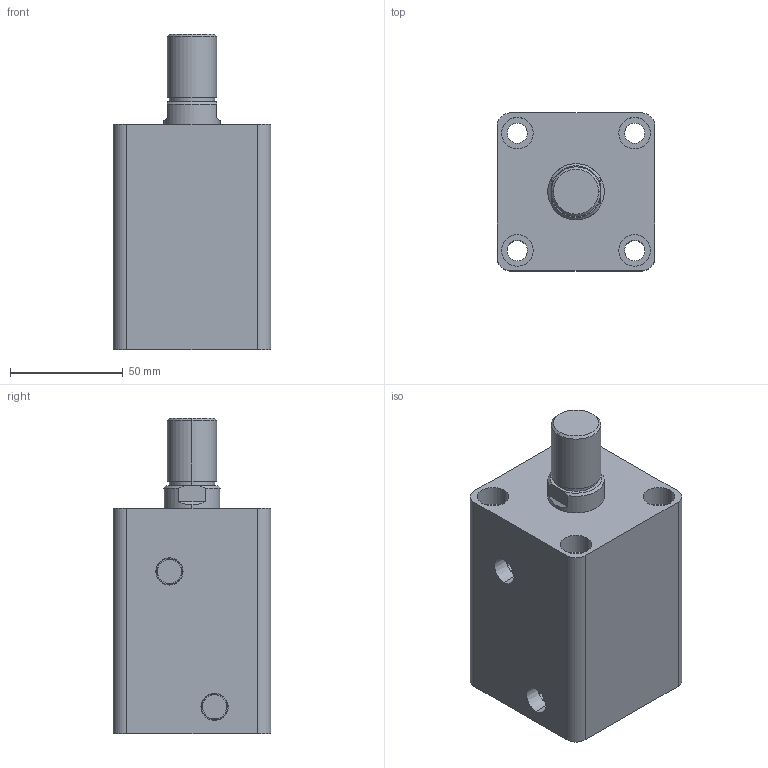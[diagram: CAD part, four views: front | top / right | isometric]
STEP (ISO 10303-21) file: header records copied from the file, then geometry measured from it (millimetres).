
FILE_DESCRIPTION (( 'STEP AP203' ), '1' );
FILE_NAME ('HTB-SD40-45W.STEP', '2019-10-07T06:51:38', ( '微软用户' ), ( '微软中国' ), 'SwSTEP 2.0', 'SolidWorks 2012', '' );
FILE_SCHEMA (( 'CONFIG_CONTROL_DESIGN' ));
Length unit declared in the file: millimetre
Products named in the file (3): HTB-SD40-45W; HTB-SD40-45掛极; HTB-SD40-45W活塞杆
Assembly tree (2 placements, depth 2):
  HTB-SD40-45W
    HTB-SD40-45掛极
    HTB-SD40-45W活塞杆
Bounding box: 70 x 70 x 140 mm (x, y, z)
Volume: 434482.7 mm3; surface area: 74142.9 mm2
Topology: 2 solids, 2 shells, 85 faces, 186 edges, 122 vertices
Faces by surface type: cylinder 44, plane 29, cone 8, torus 4
Entity records: 2709 total; most frequent: DIRECTION 466, CARTESIAN_POINT 426, ORIENTED_EDGE 372, AXIS2_PLACEMENT_3D 198, EDGE_CURVE 186, VERTEX_POINT 122, EDGE_LOOP 110, CIRCLE 108
